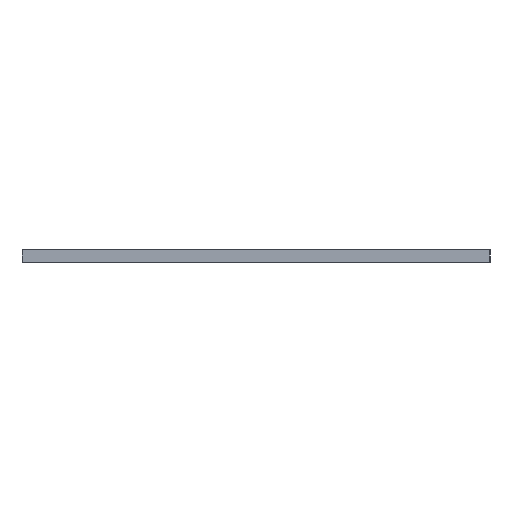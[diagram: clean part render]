
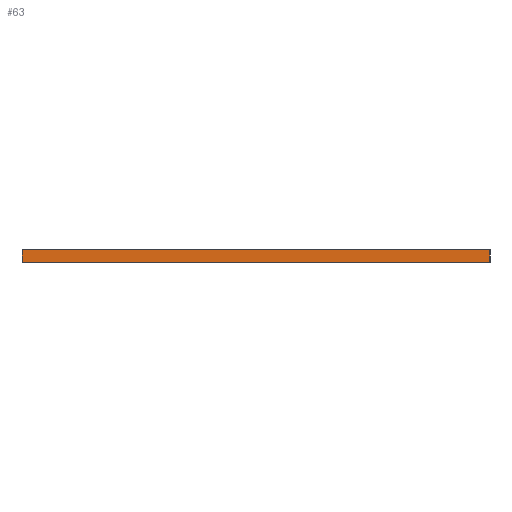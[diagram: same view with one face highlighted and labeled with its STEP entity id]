
A CAD part, left-side view. The second image highlights one B-rep face of the part: STEP entity #63.
In plain terms, the highlighted planar face has unit normal (-1, 0, 0).
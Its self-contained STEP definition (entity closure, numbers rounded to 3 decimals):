
#15 = CARTESIAN_POINT ( 'NONE',  ( -90., 37.5, 2. ) ) ;
#24 = CARTESIAN_POINT ( 'NONE',  ( -90., 37.5, 0. ) ) ;
#25 = VECTOR ( 'NONE', #871, 1000. ) ;
#61 = DIRECTION ( 'NONE',  ( 0., -1., 0. ) ) ;
#63 = ADVANCED_FACE ( 'NONE', ( #331 ), #892, .F. ) ;
#93 = EDGE_CURVE ( 'NONE', #802, #449, #611, .T. ) ;
#170 = DIRECTION ( 'NONE',  ( 0., -1., 0. ) ) ;
#285 = EDGE_CURVE ( 'NONE', #654, #802, #637, .T. ) ;
#309 = LINE ( 'NONE', #652, #707 ) ;
#331 = FACE_OUTER_BOUND ( 'NONE', #629, .T. ) ;
#335 = DIRECTION ( 'NONE',  ( 1., 0., 0. ) ) ;
#339 = CARTESIAN_POINT ( 'NONE',  ( -90., -37.5, 0. ) ) ;
#374 = AXIS2_PLACEMENT_3D ( 'NONE', #557, #335, #880 ) ;
#382 = CARTESIAN_POINT ( 'NONE',  ( -90., -37.5, 0. ) ) ;
#419 = ORIENTED_EDGE ( 'NONE', *, *, #93, .T. ) ;
#427 = ORIENTED_EDGE ( 'NONE', *, *, #779, .F. ) ;
#436 = LINE ( 'NONE', #503, #680 ) ;
#449 = VERTEX_POINT ( 'NONE', #382 ) ;
#490 = CARTESIAN_POINT ( 'NONE',  ( -90., -37.5, 2. ) ) ;
#503 = CARTESIAN_POINT ( 'NONE',  ( -90., -37.5, 2. ) ) ;
#508 = ORIENTED_EDGE ( 'NONE', *, *, #713, .F. ) ;
#520 = ORIENTED_EDGE ( 'NONE', *, *, #285, .T. ) ;
#557 = CARTESIAN_POINT ( 'NONE',  ( -90., -37.5, 2. ) ) ;
#611 = LINE ( 'NONE', #339, #649 ) ;
#627 = VERTEX_POINT ( 'NONE', #490 ) ;
#629 = EDGE_LOOP ( 'NONE', ( #419, #427, #508, #520 ) ) ;
#637 = LINE ( 'NONE', #15, #25 ) ;
#649 = VECTOR ( 'NONE', #61, 1000. ) ;
#652 = CARTESIAN_POINT ( 'NONE',  ( -90., -37.5, 2. ) ) ;
#654 = VERTEX_POINT ( 'NONE', #764 ) ;
#680 = VECTOR ( 'NONE', #782, 1000. ) ;
#707 = VECTOR ( 'NONE', #170, 1000. ) ;
#713 = EDGE_CURVE ( 'NONE', #654, #627, #309, .T. ) ;
#764 = CARTESIAN_POINT ( 'NONE',  ( -90., 37.5, 2. ) ) ;
#779 = EDGE_CURVE ( 'NONE', #627, #449, #436, .T. ) ;
#782 = DIRECTION ( 'NONE',  ( 0., 0., -1. ) ) ;
#802 = VERTEX_POINT ( 'NONE', #24 ) ;
#871 = DIRECTION ( 'NONE',  ( 0., 0., -1. ) ) ;
#880 = DIRECTION ( 'NONE',  ( 0., 0., -1. ) ) ;
#892 = PLANE ( 'NONE',  #374 ) ;
